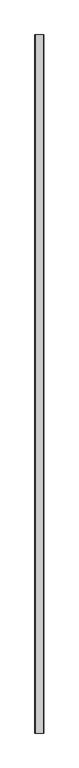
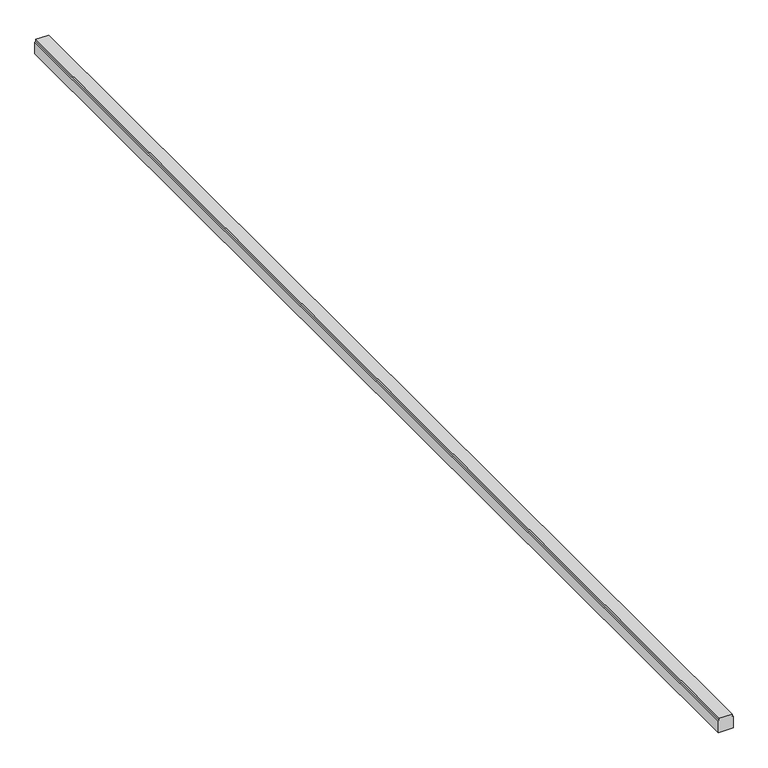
"""IFC4 building model written with IfcOpenShell, lengths in millimetres: proxy geometry, Кабель-каналы_перфорированные : Кабель-канал перфорированный 25х25 перфорация 4/6мм."""

from ifc_helpers import new_model, si_unit, frame, origin, place, context, project, spatial, polyline, outline, extrude, source, transform, mapped, element, save


def generic_models_504aaa7c(model_context):
    return source(origin(), model_context, "Body", "SweptSolid", [
        extrude(outline(polyline([(500.0, 0.0), (520.4686048, 0.0), (521.545727, -1.696289), (525.0, -1.696289), (525.0, -23.1977999), (521.3616607, -23.1977999), (520.4772989, -25.0), (500.0, -25.0), (500.0, 0.0)])), frame((0.0, -2000.0, 0.0), z_axis=(0.0, 1.0, 0.0), x_axis=(0.0, 0.0, 1.0)), (0.0, 0.0, 1.0), 2000.0),
    ])


if __name__ == "__main__":
    model = new_model("IFC4")
    model_context = context("Model", 3, world=origin())
    ifc_project = project(units=[si_unit("LENGTHUNIT", "METRE", prefix="MILLI")], contexts=[model_context])
    site = spatial("IfcSite", under=ifc_project)
    building = spatial("IfcBuilding", under=site)
    placement = place(None, origin())
    generic_models_shape = generic_models_504aaa7c(model_context)
    element("IfcBuildingElementProxy", 1, Name="Кабель-каналы_перфорированные : Кабель-канал перфорированный 25х25 перфорация 4/6мм", ObjectType="Кабель-каналы_перфорированные : Кабель-канал перфорированный 25х25 перфорация 4/6мм", at=placement, inside=building, context=model_context, shape_type="MappedRepresentation", body=[
        mapped(generic_models_shape, transform((0.0, 0.0, 0.0), x_axis=(1.0, 0.0, 0.0), y_axis=(0.0, 1.0, 0.0), z_axis=(0.0, 0.0, 1.0))),
    ])
    save(model, "model.ifc")
